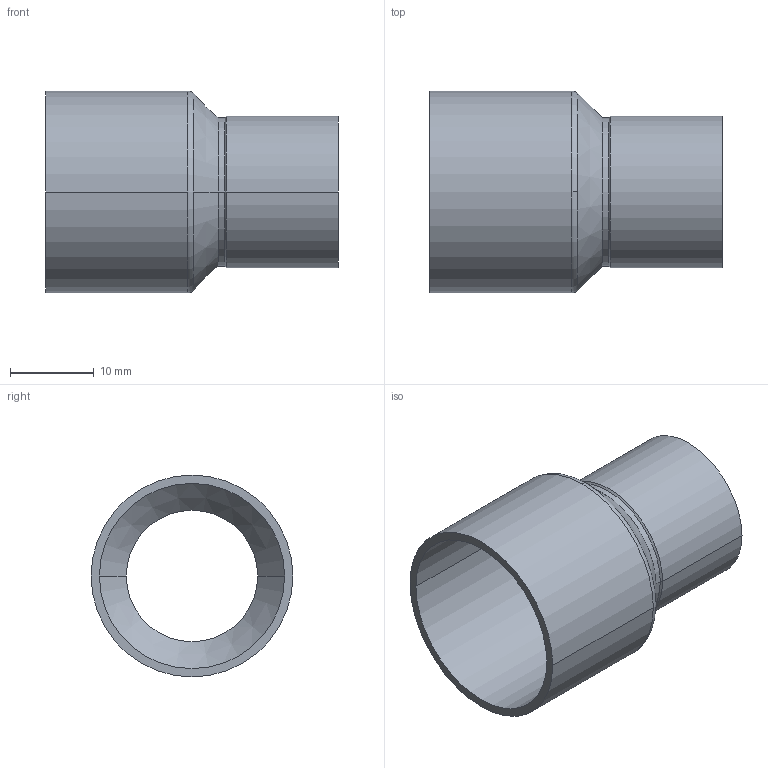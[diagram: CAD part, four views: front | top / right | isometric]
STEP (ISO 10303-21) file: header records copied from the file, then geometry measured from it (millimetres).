
FILE_DESCRIPTION((''),'2;1');
FILE_NAME('G:\Technics\CAD\Bauteile\Serie 15240\152402216.stp','2005-10-21T12:51:08',('boden'),(''),'Autodesk Inventor 8','Autodesk Inventor 8','');
FILE_SCHEMA(('AUTOMOTIVE_DESIGN { 1 0 10303 214 1 1 1 1 }'));
Length unit declared in the file: millimetre
Products named in the file (1): 152402216
Bounding box: 35 x 24.13 x 24.13 mm (x, y, z)
Volume: 2319.5 mm3; surface area: 4765.3 mm2
Topology: 1 solids, 1 shells, 24 faces, 52 edges, 30 vertices
Faces by surface type: cylinder 12, cone 8, torus 2, plane 2
Entity records: 683 total; most frequent: DIRECTION 134, CARTESIAN_POINT 107, ORIENTED_EDGE 104, AXIS2_PLACEMENT_3D 57, EDGE_CURVE 52, CIRCLE 32, VERTEX_POINT 30, EDGE_LOOP 26
